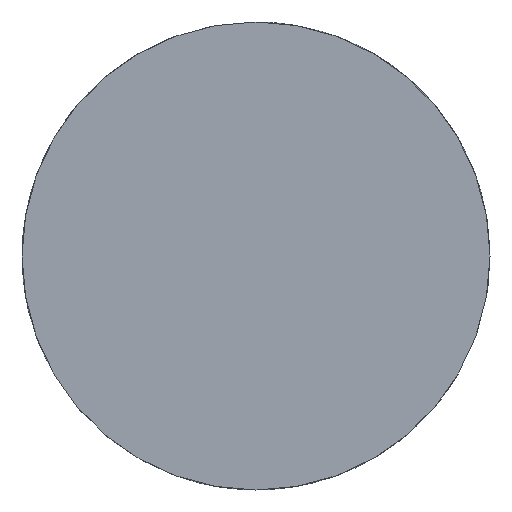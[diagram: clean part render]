
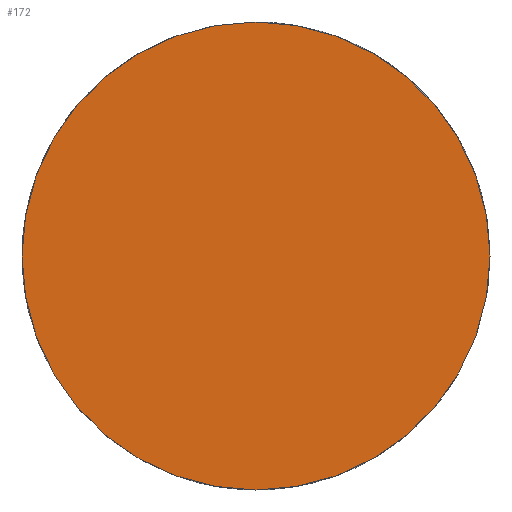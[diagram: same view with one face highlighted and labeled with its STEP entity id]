
A CAD part, front view. The second image highlights one B-rep face of the part: STEP entity #172.
In plain terms, the highlighted planar face has unit normal (0, -1, 0).
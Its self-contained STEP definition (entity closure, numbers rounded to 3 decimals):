
#152=CARTESIAN_POINT('',(-10.0,0.0,0.));
#153=VERTEX_POINT('',#152);
#154=CARTESIAN_POINT('',(0.0,0.0,0.0));
#155=DIRECTION('',(0.0,-1.0,0.0));
#156=DIRECTION('',(1.0,0.0,0.0));
#157=AXIS2_PLACEMENT_3D('',#154,#155,#156);
#158=CIRCLE('',#157,10.0);
#159=EDGE_CURVE('',#153,#153,#158,.T.);
#164=CARTESIAN_POINT('',(0.0,0.0,0.0));
#165=DIRECTION('',(0.0,-1.0,0.0));
#166=DIRECTION('',(0.0,0.0,-1.0));
#167=AXIS2_PLACEMENT_3D('',#164,#165,#166);
#168=PLANE('',#167);
#169=ORIENTED_EDGE('',*,*,#159,.T.);
#170=EDGE_LOOP('',(#169));
#171=FACE_OUTER_BOUND('',#170,.T.);
#172=ADVANCED_FACE('',(#171),#168,.T.);
